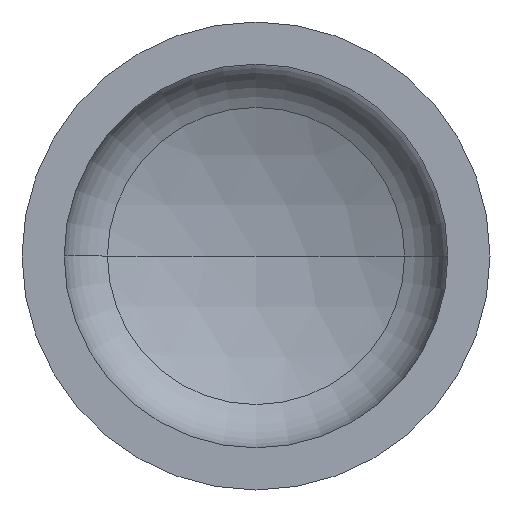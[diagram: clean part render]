
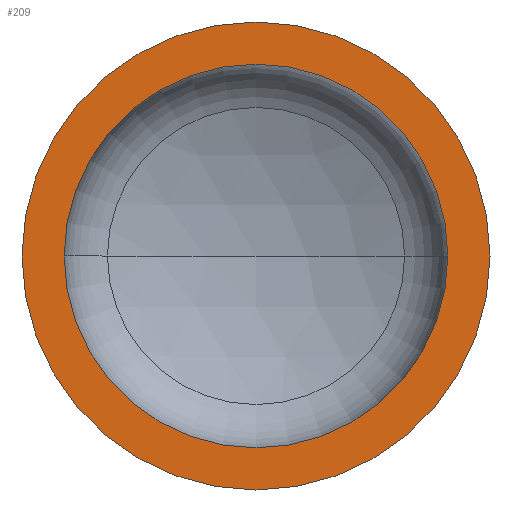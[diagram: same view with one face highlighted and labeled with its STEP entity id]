
A CAD part, front view. The second image highlights one B-rep face of the part: STEP entity #209.
In plain terms, the highlighted planar face has unit normal (0, -1, 0).
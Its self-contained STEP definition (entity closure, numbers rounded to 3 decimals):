
#10 = AXIS2_PLACEMENT_3D ( 'NONE', #173, #171, #181 ) ;
#20 = AXIS2_PLACEMENT_3D ( 'NONE', #216, #214, #206 ) ;
#27 = AXIS2_PLACEMENT_3D ( 'NONE', #236, #235, #404 ) ;
#29 = AXIS2_PLACEMENT_3D ( 'NONE', #402, #362, #319 ) ;
#38 = AXIS2_PLACEMENT_3D ( 'NONE', #380, #376, #323 ) ;
#44 = EDGE_LOOP ( 'NONE', ( #82, #104 ) ) ;
#70 = EDGE_CURVE ( 'NONE', #258, #123, #366, .T. ) ;
#82 = ORIENTED_EDGE ( 'NONE', *, *, #287, .T. ) ;
#104 = ORIENTED_EDGE ( 'NONE', *, *, #70, .T. ) ;
#123 = VERTEX_POINT ( 'NONE', #255 ) ;
#134 = ORIENTED_EDGE ( 'NONE', *, *, #331, .F. ) ;
#138 = CIRCLE ( 'NONE', #27, 300. ) ;
#157 = EDGE_LOOP ( 'NONE', ( #134, #253 ) ) ;
#163 = VERTEX_POINT ( 'NONE', #411 ) ;
#171 = DIRECTION ( 'NONE',  ( 0., -1., 0. ) ) ;
#173 = CARTESIAN_POINT ( 'NONE',  ( 0., 0., 0. ) ) ;
#178 = VERTEX_POINT ( 'NONE', #407 ) ;
#181 = DIRECTION ( 'NONE',  ( 1., 0., 0. ) ) ;
#206 = DIRECTION ( 'NONE',  ( 1., 0., 0. ) ) ;
#209 = ADVANCED_FACE ( 'NONE', ( #293, #354 ), #242, .F. ) ;
#214 = DIRECTION ( 'NONE',  ( 0., -1., 0. ) ) ;
#216 = CARTESIAN_POINT ( 'NONE',  ( 0., 0., 0. ) ) ;
#235 = DIRECTION ( 'NONE',  ( 0., -1., 0. ) ) ;
#236 = CARTESIAN_POINT ( 'NONE',  ( 0., 0., 0. ) ) ;
#242 = PLANE ( 'NONE',  #29 ) ;
#253 = ORIENTED_EDGE ( 'NONE', *, *, #296, .F. ) ;
#255 = CARTESIAN_POINT ( 'NONE',  ( 300., 0., 0. ) ) ;
#257 = CIRCLE ( 'NONE', #10, 246. ) ;
#258 = VERTEX_POINT ( 'NONE', #278 ) ;
#278 = CARTESIAN_POINT ( 'NONE',  ( -300., 0., 0. ) ) ;
#287 = EDGE_CURVE ( 'NONE', #123, #258, #138, .T. ) ;
#293 = FACE_BOUND ( 'NONE', #157, .T. ) ;
#296 = EDGE_CURVE ( 'NONE', #178, #163, #401, .T. ) ;
#319 = DIRECTION ( 'NONE',  ( -1., 0., 0. ) ) ;
#323 = DIRECTION ( 'NONE',  ( 1., 0., 0. ) ) ;
#331 = EDGE_CURVE ( 'NONE', #163, #178, #257, .T. ) ;
#354 = FACE_OUTER_BOUND ( 'NONE', #44, .T. ) ;
#362 = DIRECTION ( 'NONE',  ( 0., 1., 0. ) ) ;
#366 = CIRCLE ( 'NONE', #38, 300. ) ;
#376 = DIRECTION ( 'NONE',  ( 0., -1., 0. ) ) ;
#380 = CARTESIAN_POINT ( 'NONE',  ( 0., 0., 0. ) ) ;
#401 = CIRCLE ( 'NONE', #20, 246. ) ;
#402 = CARTESIAN_POINT ( 'NONE',  ( -300., 0., 0. ) ) ;
#404 = DIRECTION ( 'NONE',  ( 1., 0., 0. ) ) ;
#407 = CARTESIAN_POINT ( 'NONE',  ( -246., 0., 0. ) ) ;
#411 = CARTESIAN_POINT ( 'NONE',  ( 246., 0., 0. ) ) ;
